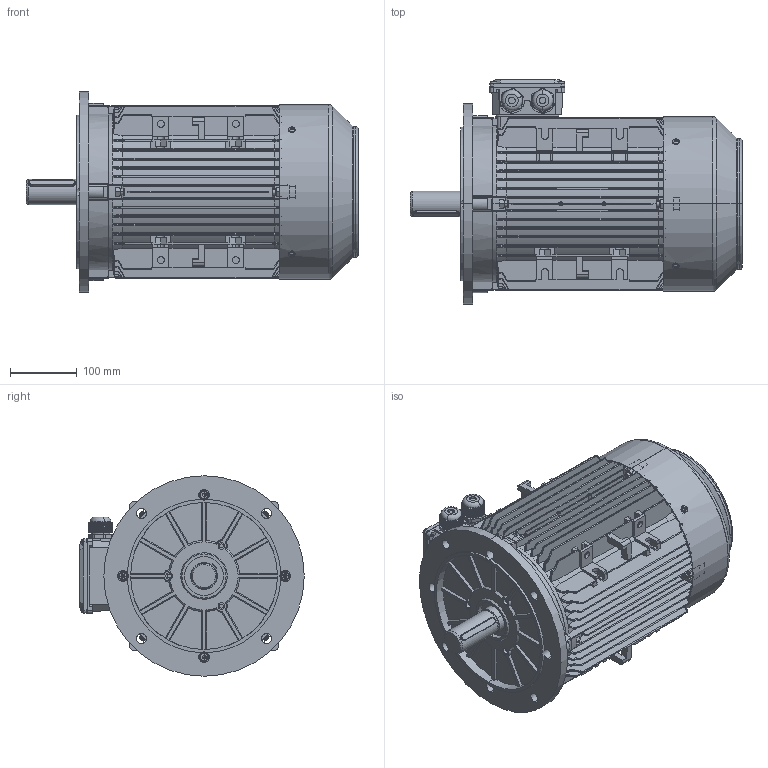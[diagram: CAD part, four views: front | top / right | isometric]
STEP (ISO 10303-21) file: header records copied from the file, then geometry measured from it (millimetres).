
FILE_DESCRIPTION (( 'STEP AP203' ), '1' );
FILE_NAME ('T132M B5(·½).STEP', '2015-04-27T01:22:06', ( 'USER' ), ( 'MS' ), 'SwSTEP 2.0', 'SolidWorks 2008', '' );
FILE_SCHEMA (( 'CONFIG_CONTROL_DESIGN' ));
Products named in the file (14): 112-132出线螺套_默认; TA132风罩_默认; MS132接线盒盖_默认; MS132接线盒座_默认; T132M B5(源); T132M机壳_默认; T132M转轴_默认; TA132后盖1_默认; 132风叶_默认; Plain parallel keys_GB_CONNECTING_PIECE_KEYS_CSK 10X70; Hexagon nuts grade C GB_GB_FASTENER_NUT_SNC1 M8-N; Hexagon socket head cap screws GB_GB_FASTENER_SCREWS_HSHCS M8X35-N; Cross recessed thread forming screws GB_GB_CROSS_SCREWS_TYPE138 M5X12-N; TA132B5法兰1_默认
Assembly tree (35 placements, depth 2):
  T132M B5(源)
    Cross recessed thread forming screws GB_GB_CROSS_SCREWS_TYPE138 M5X12-N  x8
    Hexagon nuts grade C GB_GB_FASTENER_NUT_SNC1 M8-N  x8
    112-132出线螺套_默认  x2
    MS132接线盒座_默认
    Hexagon socket head cap screws GB_GB_FASTENER_SCREWS_HSHCS M8X35-N  x8
    MS132接线盒盖_默认
    T132M转轴_默认
    TA132风罩_默认
    Plain parallel keys_GB_CONNECTING_PIECE_KEYS_CSK 10X70
    T132M机壳_默认
    TA132后盖1_默认
    132风叶_默认
    TA132B5法兰1_默认
Bounding box: 497 x 336 x 300 mm (x, y, z)
Volume: 3849312.4 mm3; surface area: 1854487.4 mm2
Topology: 35 solids, 35 shells, 5163 faces, 14051 edges, 8913 vertices
Faces by surface type: plane 2772, cylinder 1197, bspline 687, cone 363, torus 116, sphere 28
Entity records: 169979 total; most frequent: CARTESIAN_POINT 61979, ORIENTED_EDGE 24246, DIRECTION 19042, EDGE_CURVE 12123, VERTEX_POINT 7778, VECTOR 6808, LINE 6808, AXIS2_PLACEMENT_3D 6117
